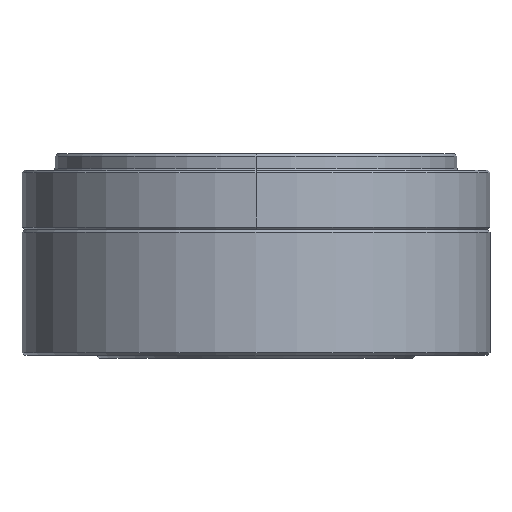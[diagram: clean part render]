
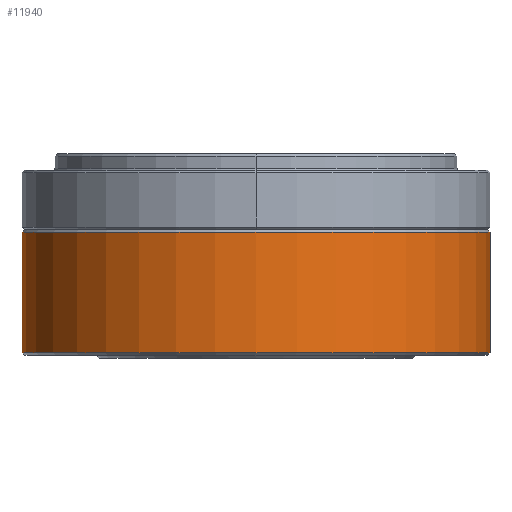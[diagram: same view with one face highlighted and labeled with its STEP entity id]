
A CAD part, front view. The second image highlights one B-rep face of the part: STEP entity #11940.
In plain terms, the highlighted cylindrical face has radius 42.5 mm (diameter 85 mm), a partial arc.
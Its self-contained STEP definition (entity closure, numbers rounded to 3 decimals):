
#203 = DIRECTION ( 'NONE',  ( 0., 0., -1. ) ) ;
#268 = DIRECTION ( 'NONE',  ( 1., 0., 0. ) ) ;
#318 = CARTESIAN_POINT ( 'NONE',  ( -0.281, -2.319, 96.2 ) ) ;
#371 = ORIENTED_EDGE ( 'NONE', *, *, #2420, .F. ) ;
#1143 = VERTEX_POINT ( 'NONE', #2446 ) ;
#1222 = EDGE_CURVE ( 'NONE', #2477, #1143, #5935, .T. ) ;
#1472 = EDGE_LOOP ( 'NONE', ( #371, #9621, #12093, #3182 ) ) ;
#2311 = CARTESIAN_POINT ( 'NONE',  ( 42.219, -2.319, 96.2 ) ) ;
#2387 = CARTESIAN_POINT ( 'NONE',  ( -0.281, -2.319, 74.3 ) ) ;
#2420 = EDGE_CURVE ( 'NONE', #2477, #10244, #6147, .T. ) ;
#2446 = CARTESIAN_POINT ( 'NONE',  ( -42.781, -2.319, 96.2 ) ) ;
#2477 = VERTEX_POINT ( 'NONE', #2311 ) ;
#2776 = VERTEX_POINT ( 'NONE', #12036 ) ;
#3182 = ORIENTED_EDGE ( 'NONE', *, *, #8667, .T. ) ;
#3341 = DIRECTION ( 'NONE',  ( 1., 0., 0. ) ) ;
#4294 = CARTESIAN_POINT ( 'NONE',  ( -42.781, -2.319, 96.7 ) ) ;
#4750 = DIRECTION ( 'NONE',  ( 0., 0., -1. ) ) ;
#5701 = DIRECTION ( 'NONE',  ( -1., 0., 0. ) ) ;
#5935 = CIRCLE ( 'NONE', #9335, 42.5 ) ;
#6147 = LINE ( 'NONE', #9927, #10966 ) ;
#6438 = VECTOR ( 'NONE', #10998, 1000. ) ;
#6859 = AXIS2_PLACEMENT_3D ( 'NONE', #2387, #9026, #3341 ) ;
#8185 = AXIS2_PLACEMENT_3D ( 'NONE', #11455, #4750, #5701 ) ;
#8667 = EDGE_CURVE ( 'NONE', #2776, #10244, #10577, .T. ) ;
#9026 = DIRECTION ( 'NONE',  ( 0., 0., 1. ) ) ;
#9028 = CYLINDRICAL_SURFACE ( 'NONE', #8185, 42.5 ) ;
#9335 = AXIS2_PLACEMENT_3D ( 'NONE', #318, #203, #268 ) ;
#9621 = ORIENTED_EDGE ( 'NONE', *, *, #1222, .T. ) ;
#9882 = DIRECTION ( 'NONE',  ( 0., 0., -1. ) ) ;
#9927 = CARTESIAN_POINT ( 'NONE',  ( 42.219, -2.319, 96.7 ) ) ;
#10244 = VERTEX_POINT ( 'NONE', #11381 ) ;
#10487 = EDGE_CURVE ( 'NONE', #1143, #2776, #11265, .T. ) ;
#10577 = CIRCLE ( 'NONE', #6859, 42.5 ) ;
#10966 = VECTOR ( 'NONE', #9882, 1000. ) ;
#10998 = DIRECTION ( 'NONE',  ( 0., 0., -1. ) ) ;
#11265 = LINE ( 'NONE', #4294, #6438 ) ;
#11381 = CARTESIAN_POINT ( 'NONE',  ( 42.219, -2.319, 74.3 ) ) ;
#11455 = CARTESIAN_POINT ( 'NONE',  ( -0.281, -2.319, 96.7 ) ) ;
#11901 = FACE_OUTER_BOUND ( 'NONE', #1472, .T. ) ;
#11940 = ADVANCED_FACE ( 'NONE', ( #11901 ), #9028, .T. ) ;
#12036 = CARTESIAN_POINT ( 'NONE',  ( -42.781, -2.319, 74.3 ) ) ;
#12093 = ORIENTED_EDGE ( 'NONE', *, *, #10487, .T. ) ;
